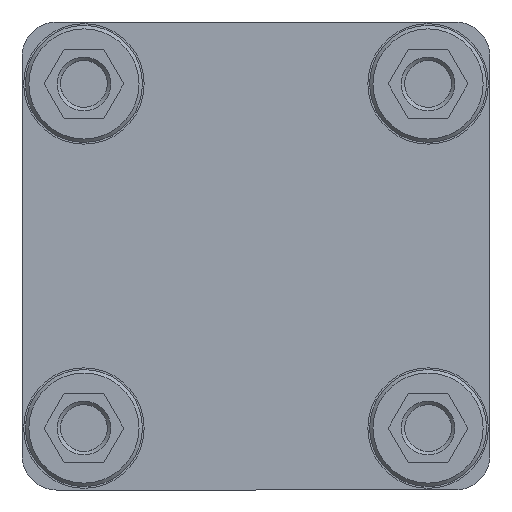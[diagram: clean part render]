
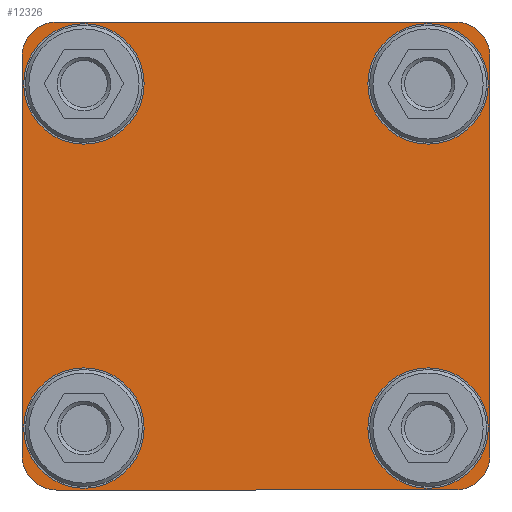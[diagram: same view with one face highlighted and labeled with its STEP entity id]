
A CAD part, left-side view. The second image highlights one B-rep face of the part: STEP entity #12326.
In plain terms, the highlighted planar face has unit normal (-1, 0, 0) as drawn and (1, 0, 0) by its records, which use the part's own axes.
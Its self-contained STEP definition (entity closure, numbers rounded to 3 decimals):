
#1453=FACE_BOUND('',#2573,.T.);
#1454=FACE_BOUND('',#2574,.T.);
#1455=FACE_BOUND('',#2575,.T.);
#1456=FACE_BOUND('',#2576,.T.);
#1596=PLANE('',#13246);
#1852=FACE_OUTER_BOUND('',#2572,.T.);
#2572=EDGE_LOOP('',(#8515,#8516,#8517,#8518,#8519,#8520,#8521,#8522));
#2573=EDGE_LOOP('',(#8523));
#2574=EDGE_LOOP('',(#8524));
#2575=EDGE_LOOP('',(#8525));
#2576=EDGE_LOOP('',(#8526));
#3386=LINE('',#16611,#4171);
#3390=LINE('',#16620,#4175);
#3396=LINE('',#16633,#4181);
#3400=LINE('',#16644,#4185);
#4171=VECTOR('',#14108,58.);
#4175=VECTOR('',#14114,58.);
#4181=VECTOR('',#14122,58.);
#4185=VECTOR('',#14130,58.);
#4944=CIRCLE('',#13175,8.75);
#4947=CIRCLE('',#13180,8.75);
#4950=CIRCLE('',#13185,8.75);
#4953=CIRCLE('',#13190,8.75);
#4968=CIRCLE('',#13218,5.);
#4969=CIRCLE('',#13220,5.);
#4970=CIRCLE('',#13222,5.);
#4971=CIRCLE('',#13224,5.);
#5210=VERTEX_POINT('',#16519);
#5213=VERTEX_POINT('',#16528);
#5216=VERTEX_POINT('',#16537);
#5219=VERTEX_POINT('',#16546);
#5232=VERTEX_POINT('',#16609);
#5233=VERTEX_POINT('',#16610);
#5236=VERTEX_POINT('',#16618);
#5237=VERTEX_POINT('',#16619);
#5242=VERTEX_POINT('',#16630);
#5243=VERTEX_POINT('',#16632);
#5247=VERTEX_POINT('',#16641);
#5248=VERTEX_POINT('',#16643);
#6477=EDGE_CURVE('',#5210,#5210,#4944,.T.);
#6481=EDGE_CURVE('',#5213,#5213,#4947,.T.);
#6485=EDGE_CURVE('',#5216,#5216,#4950,.T.);
#6489=EDGE_CURVE('',#5219,#5219,#4953,.T.);
#6509=EDGE_CURVE('',#5232,#5233,#3386,.T.);
#6513=EDGE_CURVE('',#5236,#5237,#3390,.T.);
#6519=EDGE_CURVE('',#5242,#5243,#3396,.T.);
#6524=EDGE_CURVE('',#5247,#5248,#3400,.T.);
#6531=EDGE_CURVE('',#5247,#5233,#4968,.T.);
#6532=EDGE_CURVE('',#5232,#5237,#4969,.T.);
#6533=EDGE_CURVE('',#5242,#5248,#4970,.T.);
#6534=EDGE_CURVE('',#5236,#5243,#4971,.T.);
#8515=ORIENTED_EDGE('',*,*,#6524,.F.);
#8516=ORIENTED_EDGE('',*,*,#6531,.T.);
#8517=ORIENTED_EDGE('',*,*,#6509,.F.);
#8518=ORIENTED_EDGE('',*,*,#6532,.T.);
#8519=ORIENTED_EDGE('',*,*,#6513,.F.);
#8520=ORIENTED_EDGE('',*,*,#6534,.T.);
#8521=ORIENTED_EDGE('',*,*,#6519,.F.);
#8522=ORIENTED_EDGE('',*,*,#6533,.T.);
#8523=ORIENTED_EDGE('',*,*,#6477,.T.);
#8524=ORIENTED_EDGE('',*,*,#6481,.T.);
#8525=ORIENTED_EDGE('',*,*,#6485,.T.);
#8526=ORIENTED_EDGE('',*,*,#6489,.T.);
#12326=ADVANCED_FACE('',(#1852,#1453,#1454,#1455,#1456),#1596,.T.);
#13175=AXIS2_PLACEMENT_3D('',#16520,#14032,#14033);
#13180=AXIS2_PLACEMENT_3D('',#16529,#14043,#14044);
#13185=AXIS2_PLACEMENT_3D('',#16538,#14054,#14055);
#13190=AXIS2_PLACEMENT_3D('',#16547,#14065,#14066);
#13218=AXIS2_PLACEMENT_3D('',#16654,#14146,#14147);
#13220=AXIS2_PLACEMENT_3D('',#16656,#14150,#14151);
#13222=AXIS2_PLACEMENT_3D('',#16658,#14154,#14155);
#13224=AXIS2_PLACEMENT_3D('',#16660,#14158,#14159);
#13246=AXIS2_PLACEMENT_3D('',#16699,#14208,#14209);
#14032=DIRECTION('center_axis',(-1.,0.,0.));
#14033=DIRECTION('ref_axis',(0.,1.,0.));
#14043=DIRECTION('center_axis',(-1.,0.,0.));
#14044=DIRECTION('ref_axis',(0.,1.,0.));
#14054=DIRECTION('center_axis',(-1.,0.,0.));
#14055=DIRECTION('ref_axis',(0.,1.,0.));
#14065=DIRECTION('center_axis',(-1.,0.,0.));
#14066=DIRECTION('ref_axis',(0.,1.,0.));
#14108=DIRECTION('',(0.,0.,1.));
#14114=DIRECTION('',(0.,-1.,0.));
#14122=DIRECTION('',(0.,0.,-1.));
#14130=DIRECTION('',(0.,1.,0.));
#14146=DIRECTION('center_axis',(1.,0.,0.));
#14147=DIRECTION('ref_axis',(0.,0.,-1.));
#14150=DIRECTION('center_axis',(1.,0.,0.));
#14151=DIRECTION('ref_axis',(0.,0.,-1.));
#14154=DIRECTION('center_axis',(1.,0.,0.));
#14155=DIRECTION('ref_axis',(0.,0.,-1.));
#14158=DIRECTION('center_axis',(1.,0.,0.));
#14159=DIRECTION('ref_axis',(0.,0.,-1.));
#14208=DIRECTION('center_axis',(1.,0.,0.));
#14209=DIRECTION('ref_axis',(0.,0.,-1.));
#16519=CARTESIAN_POINT('',(0.,16.25,25.));
#16520=CARTESIAN_POINT('Origin',(0.,25.,25.));
#16528=CARTESIAN_POINT('',(0.,16.25,-25.));
#16529=CARTESIAN_POINT('Origin',(0.,25.,-25.));
#16537=CARTESIAN_POINT('',(0.,-33.75,25.));
#16538=CARTESIAN_POINT('Origin',(0.,-25.,25.));
#16546=CARTESIAN_POINT('',(0.,-33.75,-25.));
#16547=CARTESIAN_POINT('Origin',(0.,-25.,-25.));
#16609=CARTESIAN_POINT('',(0.,-34.,-29.));
#16610=CARTESIAN_POINT('',(0.,-34.,29.));
#16611=CARTESIAN_POINT('',(0.,-34.,-29.));
#16618=CARTESIAN_POINT('',(0.,29.,-34.));
#16619=CARTESIAN_POINT('',(0.,-29.,-34.));
#16620=CARTESIAN_POINT('',(0.,29.,-34.));
#16630=CARTESIAN_POINT('',(0.,34.,29.));
#16632=CARTESIAN_POINT('',(0.,34.,-29.));
#16633=CARTESIAN_POINT('',(0.,34.,29.));
#16641=CARTESIAN_POINT('',(0.,-29.,34.));
#16643=CARTESIAN_POINT('',(0.,29.,34.));
#16644=CARTESIAN_POINT('',(0.,-29.,34.));
#16654=CARTESIAN_POINT('Origin',(0.,-29.,29.));
#16656=CARTESIAN_POINT('Origin',(0.,-29.,-29.));
#16658=CARTESIAN_POINT('Origin',(0.,29.,29.));
#16660=CARTESIAN_POINT('Origin',(0.,29.,-29.));
#16699=CARTESIAN_POINT('Origin',(0.,0.,0.));
